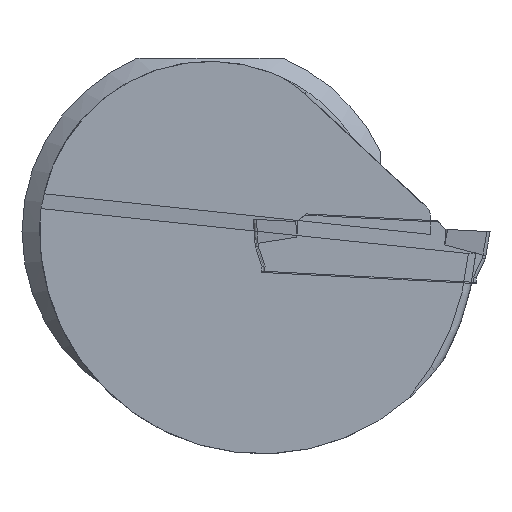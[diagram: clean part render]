
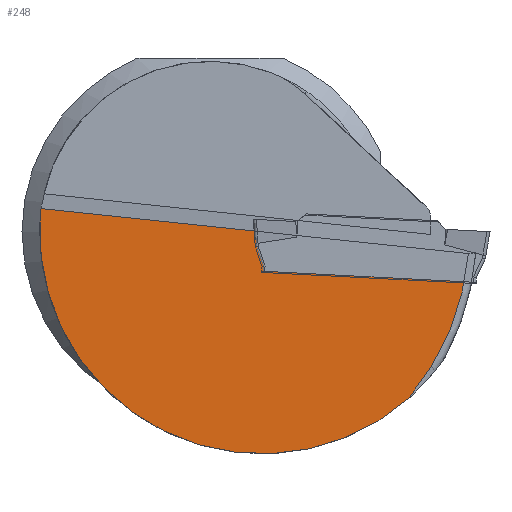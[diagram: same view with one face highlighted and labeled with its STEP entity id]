
A CAD part, left-side view. The second image highlights one B-rep face of the part: STEP entity #248.
In plain terms, the highlighted planar face has unit normal (-1, 0, 0).
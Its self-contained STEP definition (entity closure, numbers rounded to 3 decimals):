
#139=CIRCLE('',#1420,17.5);
#144=CIRCLE('',#1435,11.5);
#145=CIRCLE('',#1436,15.);
#191=PLANE('',#1437);
#248=ADVANCED_FACE('',(#348),#191,.F.);
#348=FACE_OUTER_BOUND('',#417,.T.);
#417=EDGE_LOOP('',(#920,#921,#922,#923));
#534=LINE('',#2245,#639);
#639=VECTOR('',#1746,1.);
#920=ORIENTED_EDGE('',*,*,#1253,.T.);
#921=ORIENTED_EDGE('',*,*,#1274,.F.);
#922=ORIENTED_EDGE('',*,*,#1277,.T.);
#923=ORIENTED_EDGE('',*,*,#1278,.F.);
#1095=VERTEX_POINT('',#2134);
#1096=VERTEX_POINT('',#2136);
#1109=VERTEX_POINT('',#2244);
#1111=VERTEX_POINT('',#2252);
#1253=EDGE_CURVE('',#1096,#1095,#139,.T.);
#1274=EDGE_CURVE('',#1109,#1095,#534,.T.);
#1277=EDGE_CURVE('',#1109,#1111,#144,.T.);
#1278=EDGE_CURVE('',#1096,#1111,#145,.T.);
#1420=AXIS2_PLACEMENT_3D('',#2135,#1718,#1719);
#1435=AXIS2_PLACEMENT_3D('',#2251,#1755,#1756);
#1436=AXIS2_PLACEMENT_3D('',#2253,#1757,#1758);
#1437=AXIS2_PLACEMENT_3D('',#2254,#1759,#1760);
#1718=DIRECTION('',(-1.,0.,0.));
#1719=DIRECTION('',(0.,1.,0.));
#1746=DIRECTION('',(0.,-0.995,-0.105));
#1755=DIRECTION('',(-1.,0.,0.));
#1756=DIRECTION('',(0.,1.,0.));
#1757=DIRECTION('',(1.,0.,0.));
#1758=DIRECTION('',(0.,1.,0.));
#1759=DIRECTION('',(1.,0.,0.));
#1760=DIRECTION('',(0.,1.,0.));
#2134=CARTESIAN_POINT('',(0.25,1.462,-1.475));
#2135=CARTESIAN_POINT('',(0.25,18.9,0.));
#2136=CARTESIAN_POINT('',(0.25,5.543,-11.306));
#2244=CARTESIAN_POINT('',(0.25,30.314,1.557));
#2245=CARTESIAN_POINT('',(0.25,7.488,-0.842));
#2251=CARTESIAN_POINT('',(0.25,18.894,0.2));
#2252=CARTESIAN_POINT('',(0.25,30.375,0.857));
#2253=CARTESIAN_POINT('',(0.25,15.4,0.));
#2254=CARTESIAN_POINT('',(0.25,7.4,0.));
